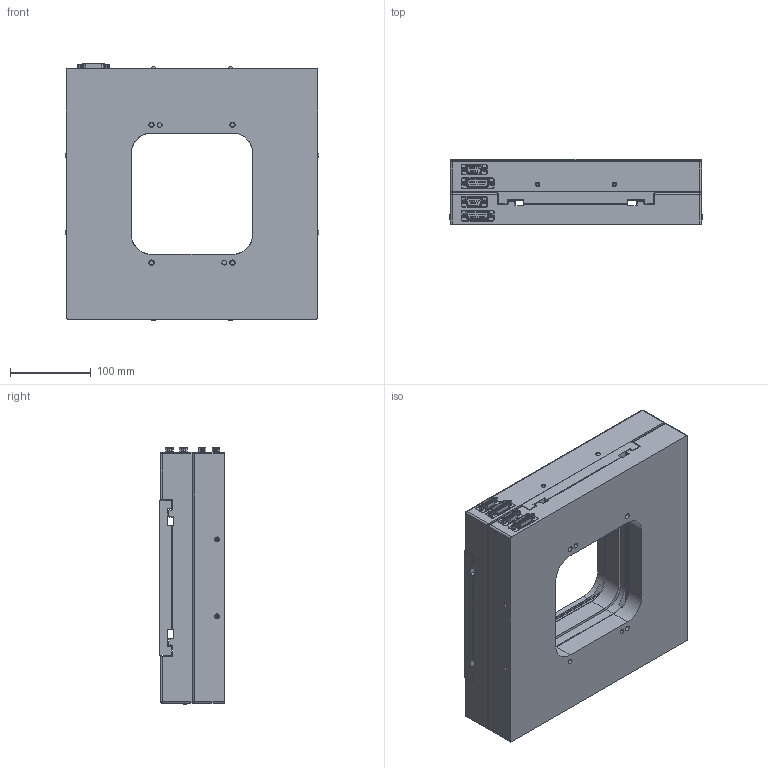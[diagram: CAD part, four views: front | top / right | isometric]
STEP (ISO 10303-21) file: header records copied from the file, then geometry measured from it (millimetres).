
FILE_DESCRIPTION((''),'2;1');
FILE_NAME('KDT235_310____________00011026_ASM','2016-09-21T',('profile'),(''),'PRO/ENGINEER BY PARAMETRIC TECHNOLOGY CORPORATION, 2015280','PRO/ENGINEER BY PARAMETRIC TECHNOLOGY CORPORATION, 2015280','');
FILE_SCHEMA(('CONFIG_CONTROL_DESIGN'));
Length unit declared in the file: millimetre
Products named in the file (9): WEB_KDT_BASIS_310_X___00012124; WEB_KDT310_SCHIEBER2__00011025; KT_9POL_SUB_D_STECKER; KT_15POL_SUB_D_STECKER; KT_SECHSKANTB_DA_M3_D_00012278; LDT310_X______________00012_AF0_ASM; WEB_KDT_BASIS_310_Y___00012126; LDT310_Y______________00012_AF0_ASM; KDT235_310____________00011026_ASM
Assembly tree (18 placements, depth 3):
  KDT235_310____________00011026_ASM
    LDT310_X______________00012_AF0_ASM
      WEB_KDT_BASIS_310_X___00012124
      WEB_KDT310_SCHIEBER2__00011025
      KT_9POL_SUB_D_STECKER
      KT_15POL_SUB_D_STECKER
      KT_SECHSKANTB_DA_M3_D_00012278  x4
    LDT310_Y______________00012_AF0_ASM
      WEB_KDT_BASIS_310_Y___00012126
      WEB_KDT310_SCHIEBER2__00011025
      KT_9POL_SUB_D_STECKER
      KT_15POL_SUB_D_STECKER
      KT_SECHSKANTB_DA_M3_D_00012278  x4
Bounding box: 313.3 x 80 x 317.65 mm (x, y, z)
Volume: 5668438.3 mm3; surface area: 670469.5 mm2
Topology: 16 solids, 40 shells, 1494 faces, 3512 edges, 2176 vertices
Faces by surface type: cylinder 660, plane 490, torus 228, cone 80, bspline 28, sphere 8
Entity records: 26020 total; most frequent: CARTESIAN_POINT 4911, DIRECTION 4852, ORIENTED_EDGE 4016, EDGE_CURVE 2040, AXIS2_PLACEMENT_3D 1940, VERTEX_POINT 1293, CIRCLE 1056, EDGE_LOOP 1009
